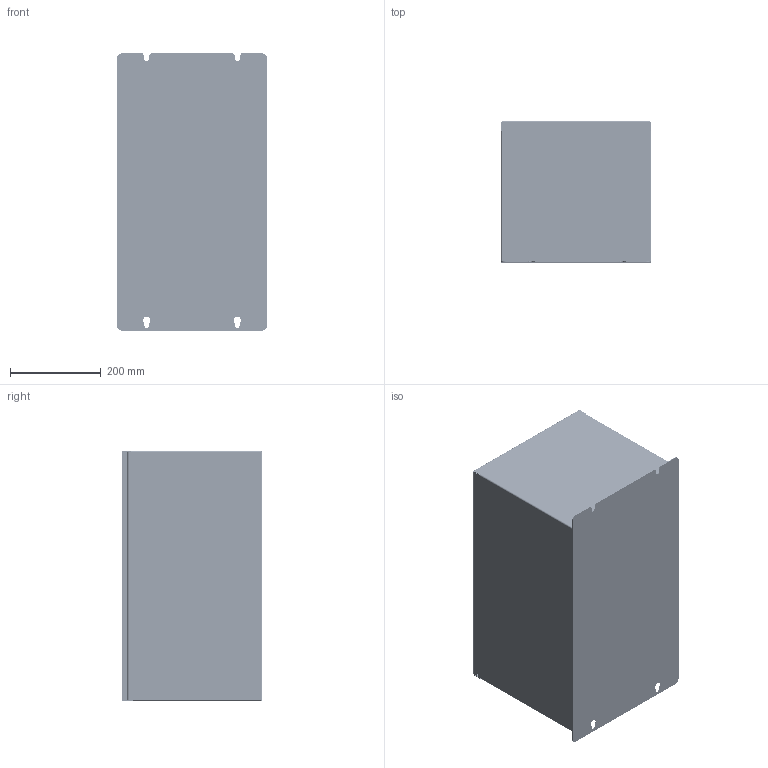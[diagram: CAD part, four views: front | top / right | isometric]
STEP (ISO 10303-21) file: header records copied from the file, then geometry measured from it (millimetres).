
FILE_DESCRIPTION (( 'STEP AP214' ), '1' );
FILE_NAME ('2S-60A曹けん軞蚾3D.STEP', '2023-11-16T05:30:50', ( '' ), ( '' ), 'SwSTEP 2.0', 'SolidWorks 2016', '' );
FILE_SCHEMA (( 'AUTOMOTIVE_DESIGN' ));
Length unit declared in the file: millimetre
Products named in the file (49): P1_1_1_1_2; DISPLAY-PCB; 55KW风机水泵变频器面板装配体-2023.06.08; MINI_USB_B_F__ASM_2_ASM_1_ASM_1_ASM; CONr0001010-00; MINI_USB_B_F__ASM_ASM_1_ASM_1_A_ASM; CONr00000004-76; 傷赽諳梓暮啣; 諷秶啣假蚾啣; CONr00000026-25; 十字槽凹穴六角头螺栓、弹簧垫圈和平垫圈组合件M8X20_M8X20; 珆尨啣郪璃; 2S-60A曹けん軞蚾3D; CONr00000020-16; 菁眊啣; H_1_1_1_5; PCB_CONTROL; CONr0000RJ45-23; 佷坰_2026WR-2x05A1-9TSN; CONr00000036-12; CONr2026WR-2X17-9TSN; MECrFTR0550101-00; 3M MDR 10320-52F; 3M MDR 10336-52F; spcr00031066-00-21; MECrFTR0550102-00; 佷坰_2026WR-2x05A1-9TSN -蕾宒; HP-RT150BASE_10A; 11_2; CONr00000010-65; scrr000000m3-29_1_asm; HP-RT150A; 3M MDR 10326-52F; WSRR000000M3-08; FLAT_WASHER_M3; MINI_USB_B_F_ASM_2_ASM_1_ASM_ASM; HP-RT150B; 假蚾菁啣; R11107800 DJSB思科赛德;27;9;TR150-01-9P-FaCM0;150A轨道式; SCREW_M3_10H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
Assembly tree (93 placements, depth 8):
  2S-60A曹けん軞蚾3D
    菁眊啣
    諷秶啣假蚾啣
    spcr00031066-00  x7
    spcr00041066-00
    PCB_CONTROL
    scrr000000m3-29_1_asm  x8
      SCREW_M3_10H
      FLAT_WASHER_M3
      WSRR000000M3-08
    MECrFTR0550101-00
    MECrFTR0550102-00
    LEXrFTR0550101-00
    CONr00000026-25
    CONr00000020-16
    CONr00000036-12
    CONr0000RJ45-23  x2
    CONr00000004-76
    CONr00000010-65
    CONr2026WR-2X17-9TSN
    CONr0001010-00
    3M MDR 10326-52F
    3M MDR 10336-52F
    3M MDR 10320-52F
    假蚾菁啣
    珆尨啣郪璃
      DISPLAY-PCB
      杅鎢奪
      佷坰_2026WR-2x05A1-9TSN
    佷坰_2026WR-2x05A1-9TSN -蕾宒
    mini_usb_b_f_asm_asm_21_asm_asm
      11_2  x2
      MINI_USB_B_F_ASM_2_ASM_1_ASM_ASM
        PRT0001_1_11
        MINI_USB_B_F__ASM_ASM_1_ASM_1_A_ASM
          MINI_USB_B_F__ASM_2_ASM_1_ASM_1_ASM
            MINI-B_5P_F_SMT_3_95H-110801_AS_ASM
              TERMINAL_ASM_1_ASM_1_ASM_1_ASM__ASM
                P1_1_1_1_2  x3
              H_1_1_1_5
    55KW风机水泵变频器面板装配体-2023.06.08
      H81100642 ROD1015DV3;AS.L14 A;160KW通用变频器风扇电源板 测试
    R11107800 DJSB思科赛德;27;9;TR150-01-9P-FaCM0;150A轨道式
      HP-RT150B  x2
      HP-RT150A  x9
      HP-RT150BASE_10A
      十字槽凹穴六角头螺栓、弹簧垫圈和平垫圈组合件M8X20_M8X20  x18
    傷赽諳梓暮啣
    spcr00031066-00-21  x3
Bounding box: 330 x 310.2 x 610 mm (x, y, z)
Volume: 6942478.1 mm3; surface area: 3138662.8 mm2
Topology: 118 solids, 153 shells, 8667 faces, 23008 edges, 15048 vertices
Faces by surface type: plane 6051, cylinder 1819, cone 658, bspline 114, torus 25
Entity records: 240225 total; most frequent: CARTESIAN_POINT 83088, ORIENTED_EDGE 31210, DIRECTION 23083, EDGE_CURVE 15617, VERTEX_POINT 10550, LINE 9261, VECTOR 9261, AXIS2_PLACEMENT_3D 6911
